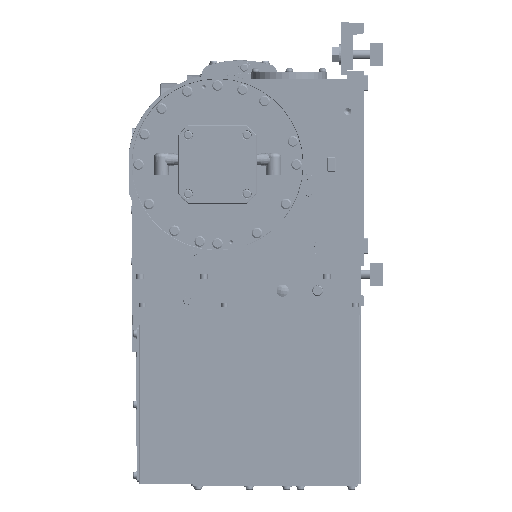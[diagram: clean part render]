
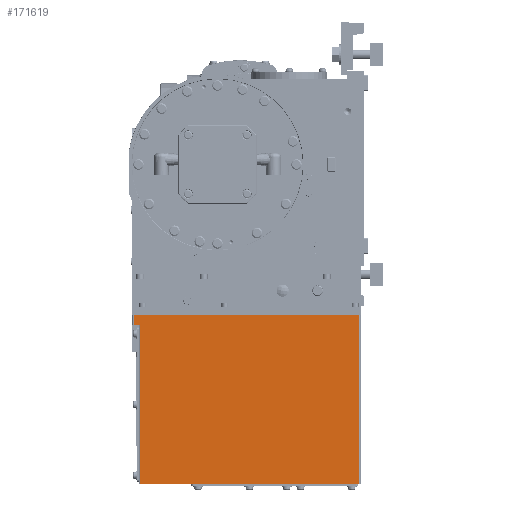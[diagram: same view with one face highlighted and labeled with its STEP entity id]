
A CAD part, left-side view. The second image highlights one B-rep face of the part: STEP entity #171619.
In plain terms, the highlighted planar face has unit normal (-1, 0, 0).
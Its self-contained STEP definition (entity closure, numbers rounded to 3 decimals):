
#32 = DIRECTION ( 'NONE',  ( 0., 1., 0. ) ) ;
#4562 = LINE ( 'NONE', #73543, #119133 ) ;
#5446 = CARTESIAN_POINT ( 'NONE',  ( 0., 271., -12. ) ) ;
#16395 = EDGE_CURVE ( 'NONE', #80933, #77483, #68011, .T. ) ;
#17609 = CARTESIAN_POINT ( 'NONE',  ( 0., 279., -208. ) ) ;
#27707 = CARTESIAN_POINT ( 'NONE',  ( 0., 279., -12. ) ) ;
#30635 = EDGE_CURVE ( 'NONE', #105828, #192087, #92371, .T. ) ;
#34253 = LINE ( 'NONE', #151056, #148860 ) ;
#35165 = PLANE ( 'NONE',  #59573 ) ;
#35184 = VECTOR ( 'NONE', #122176, 1000. ) ;
#39859 = LINE ( 'NONE', #17609, #35184 ) ;
#50147 = DIRECTION ( 'NONE',  ( 0., 0., 1. ) ) ;
#54395 = CARTESIAN_POINT ( 'NONE',  ( 0., 279., 0. ) ) ;
#57246 = DIRECTION ( 'NONE',  ( 0., -1., 0. ) ) ;
#58811 = ORIENTED_EDGE ( 'NONE', *, *, #75536, .T. ) ;
#59573 = AXIS2_PLACEMENT_3D ( 'NONE', #124745, #139765, #50147 ) ;
#59920 = CARTESIAN_POINT ( 'NONE',  ( 0., 0., 0. ) ) ;
#60192 = VERTEX_POINT ( 'NONE', #27707 ) ;
#61454 = DIRECTION ( 'NONE',  ( 0., 0., -1. ) ) ;
#62499 = FACE_OUTER_BOUND ( 'NONE', #89087, .T. ) ;
#65860 = VECTOR ( 'NONE', #32, 1000. ) ;
#68011 = LINE ( 'NONE', #177059, #103108 ) ;
#73543 = CARTESIAN_POINT ( 'NONE',  ( 0., 2., -208. ) ) ;
#74489 = CARTESIAN_POINT ( 'NONE',  ( 0., 281., -12. ) ) ;
#75536 = EDGE_CURVE ( 'NONE', #77483, #192087, #4562, .T. ) ;
#77483 = VERTEX_POINT ( 'NONE', #187345 ) ;
#80627 = ORIENTED_EDGE ( 'NONE', *, *, #153374, .F. ) ;
#80933 = VERTEX_POINT ( 'NONE', #121203 ) ;
#89087 = EDGE_LOOP ( 'NONE', ( #94557, #58811, #156180, #100511, #80627, #107602 ) ) ;
#92371 = LINE ( 'NONE', #59920, #122795 ) ;
#94557 = ORIENTED_EDGE ( 'NONE', *, *, #16395, .T. ) ;
#100511 = ORIENTED_EDGE ( 'NONE', *, *, #178406, .T. ) ;
#103108 = VECTOR ( 'NONE', #57246, 1000. ) ;
#105622 = LINE ( 'NONE', #74489, #65860 ) ;
#105828 = VERTEX_POINT ( 'NONE', #54395 ) ;
#107602 = ORIENTED_EDGE ( 'NONE', *, *, #107682, .T. ) ;
#107682 = EDGE_CURVE ( 'NONE', #165611, #80933, #34253, .T. ) ;
#119133 = VECTOR ( 'NONE', #178399, 1000. ) ;
#121203 = CARTESIAN_POINT ( 'NONE',  ( 0., 271., -208. ) ) ;
#122176 = DIRECTION ( 'NONE',  ( 0., 0., -1. ) ) ;
#122795 = VECTOR ( 'NONE', #149538, 1000. ) ;
#124745 = CARTESIAN_POINT ( 'NONE',  ( 0., 0., -208. ) ) ;
#139765 = DIRECTION ( 'NONE',  ( -1., 0., 0. ) ) ;
#148860 = VECTOR ( 'NONE', #61454, 1000. ) ;
#149538 = DIRECTION ( 'NONE',  ( 0., -1., 0. ) ) ;
#151056 = CARTESIAN_POINT ( 'NONE',  ( 0., 271., -208. ) ) ;
#153374 = EDGE_CURVE ( 'NONE', #165611, #60192, #105622, .T. ) ;
#156180 = ORIENTED_EDGE ( 'NONE', *, *, #30635, .F. ) ;
#165611 = VERTEX_POINT ( 'NONE', #5446 ) ;
#171619 = ADVANCED_FACE ( 'NONE', ( #62499 ), #35165, .T. ) ;
#177059 = CARTESIAN_POINT ( 'NONE',  ( 0., 0., -208. ) ) ;
#178399 = DIRECTION ( 'NONE',  ( 0., 0., 1. ) ) ;
#178406 = EDGE_CURVE ( 'NONE', #105828, #60192, #39859, .T. ) ;
#186618 = CARTESIAN_POINT ( 'NONE',  ( 0., 2., 0. ) ) ;
#187345 = CARTESIAN_POINT ( 'NONE',  ( 0., 2., -208. ) ) ;
#192087 = VERTEX_POINT ( 'NONE', #186618 ) ;
